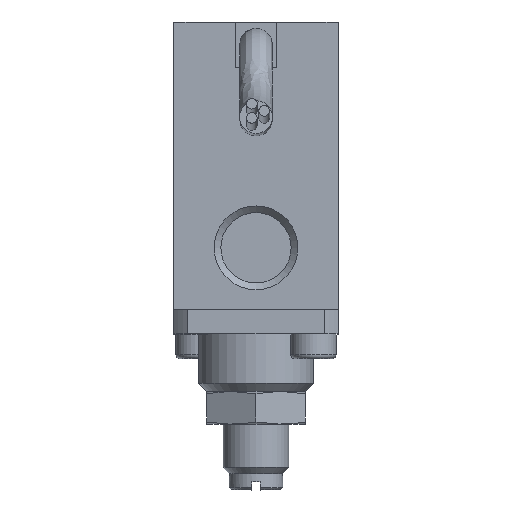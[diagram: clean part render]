
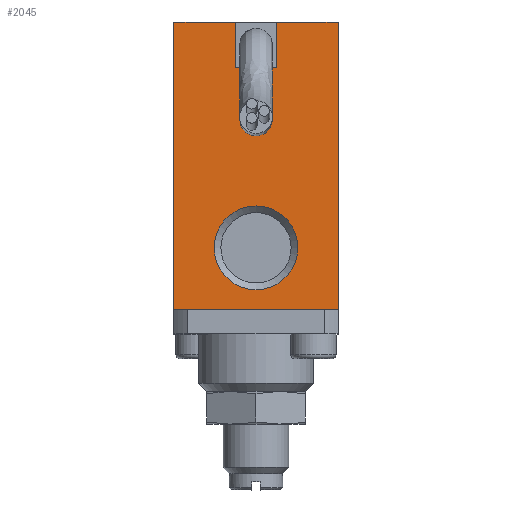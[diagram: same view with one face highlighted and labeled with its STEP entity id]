
A CAD part, front view. The second image highlights one B-rep face of the part: STEP entity #2045.
In plain terms, the highlighted planar face has unit normal (0, -1, 0).
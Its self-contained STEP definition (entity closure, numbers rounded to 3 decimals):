
#80=CIRCLE('',#2176,5.1);
#81=CIRCLE('',#2177,5.1);
#279=FACE_BOUND('',#413,.T.);
#301=FACE_OUTER_BOUND('',#412,.T.);
#412=EDGE_LOOP('',(#1385,#1386,#1387,#1388,#1389,#1390,#1391,#1392));
#413=EDGE_LOOP('',(#1393,#1394));
#540=LINE('',#2943,#712);
#542=LINE('',#2947,#714);
#543=LINE('',#2948,#715);
#544=LINE('',#3160,#716);
#545=LINE('',#3162,#717);
#546=LINE('',#3164,#718);
#547=LINE('',#3166,#719);
#548=LINE('',#3167,#720);
#712=VECTOR('',#2375,10.);
#714=VECTOR('',#2377,10.);
#715=VECTOR('',#2378,10.);
#716=VECTOR('',#2381,10.);
#717=VECTOR('',#2382,10.);
#718=VECTOR('',#2383,10.);
#719=VECTOR('',#2384,10.);
#720=VECTOR('',#2385,10.);
#884=VERTEX_POINT('',#2941);
#885=VERTEX_POINT('',#2942);
#886=VERTEX_POINT('',#2944);
#887=VERTEX_POINT('',#2946);
#889=VERTEX_POINT('',#3159);
#890=VERTEX_POINT('',#3161);
#891=VERTEX_POINT('',#3163);
#892=VERTEX_POINT('',#3165);
#893=VERTEX_POINT('',#3168);
#894=VERTEX_POINT('',#3169);
#1086=EDGE_CURVE('',#884,#885,#540,.T.);
#1088=EDGE_CURVE('',#887,#886,#542,.T.);
#1089=EDGE_CURVE('',#885,#887,#543,.T.);
#1091=EDGE_CURVE('',#884,#889,#544,.T.);
#1092=EDGE_CURVE('',#890,#886,#545,.T.);
#1093=EDGE_CURVE('',#891,#890,#546,.T.);
#1094=EDGE_CURVE('',#892,#891,#547,.T.);
#1095=EDGE_CURVE('',#892,#889,#548,.T.);
#1096=EDGE_CURVE('',#893,#894,#80,.T.);
#1097=EDGE_CURVE('',#894,#893,#81,.T.);
#1385=ORIENTED_EDGE('',*,*,#1091,.F.);
#1386=ORIENTED_EDGE('',*,*,#1086,.T.);
#1387=ORIENTED_EDGE('',*,*,#1089,.T.);
#1388=ORIENTED_EDGE('',*,*,#1088,.T.);
#1389=ORIENTED_EDGE('',*,*,#1092,.F.);
#1390=ORIENTED_EDGE('',*,*,#1093,.F.);
#1391=ORIENTED_EDGE('',*,*,#1094,.F.);
#1392=ORIENTED_EDGE('',*,*,#1095,.T.);
#1393=ORIENTED_EDGE('',*,*,#1096,.T.);
#1394=ORIENTED_EDGE('',*,*,#1097,.T.);
#1969=PLANE('',#2175);
#2045=ADVANCED_FACE('',(#301,#279),#1969,.T.);
#2175=AXIS2_PLACEMENT_3D('',#3158,#2379,#2380);
#2176=AXIS2_PLACEMENT_3D('',#3170,#2386,#2387);
#2177=AXIS2_PLACEMENT_3D('',#3171,#2388,#2389);
#2375=DIRECTION('',(0.,0.,-1.));
#2377=DIRECTION('',(0.,0.,1.));
#2378=DIRECTION('',(-1.,0.,0.));
#2379=DIRECTION('center_axis',(0.,-1.,0.));
#2380=DIRECTION('ref_axis',(1.,0.,0.));
#2381=DIRECTION('',(1.,0.,0.));
#2382=DIRECTION('',(1.,0.,0.));
#2383=DIRECTION('',(0.,0.,1.));
#2384=DIRECTION('',(-1.,0.,0.));
#2385=DIRECTION('',(0.,0.,1.));
#2386=DIRECTION('center_axis',(0.,1.,0.));
#2387=DIRECTION('ref_axis',(0.,0.,1.));
#2388=DIRECTION('center_axis',(0.,1.,0.));
#2389=DIRECTION('ref_axis',(0.,0.,1.));
#2941=CARTESIAN_POINT('',(2.5,12.35,29.657));
#2942=CARTESIAN_POINT('',(2.5,12.35,24.157));
#2943=CARTESIAN_POINT('',(2.5,12.35,12.157));
#2944=CARTESIAN_POINT('',(-2.5,12.35,29.657));
#2946=CARTESIAN_POINT('',(-2.5,12.35,24.157));
#2947=CARTESIAN_POINT('',(-2.5,12.35,12.157));
#2948=CARTESIAN_POINT('',(-5.,12.35,24.157));
#3158=CARTESIAN_POINT('Origin',(-10.,12.35,-5.343));
#3159=CARTESIAN_POINT('',(10.,12.35,29.657));
#3160=CARTESIAN_POINT('',(10.,12.35,29.657));
#3161=CARTESIAN_POINT('',(-10.,12.35,29.657));
#3162=CARTESIAN_POINT('',(10.,12.35,29.657));
#3163=CARTESIAN_POINT('',(-10.,12.35,-5.343));
#3164=CARTESIAN_POINT('',(-10.,12.35,-5.343));
#3165=CARTESIAN_POINT('',(10.,12.35,-5.343));
#3166=CARTESIAN_POINT('',(10.,12.35,-5.343));
#3167=CARTESIAN_POINT('',(10.,12.35,-5.343));
#3168=CARTESIAN_POINT('',(0.,12.35,7.257));
#3169=CARTESIAN_POINT('',(0.,12.35,-2.943));
#3170=CARTESIAN_POINT('Origin',(0.,12.35,
2.157));
#3171=CARTESIAN_POINT('Origin',(0.,12.35,
2.157));
